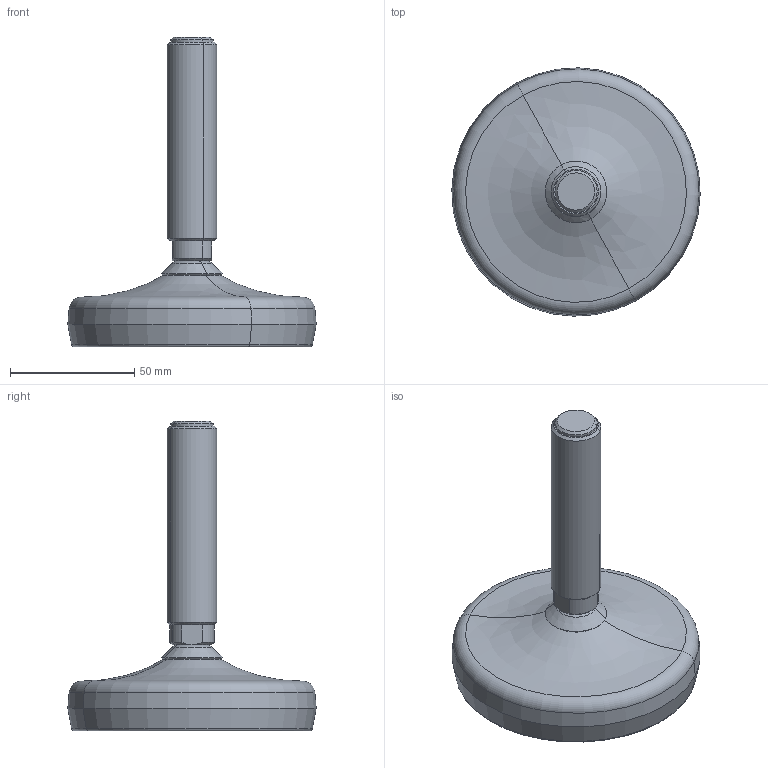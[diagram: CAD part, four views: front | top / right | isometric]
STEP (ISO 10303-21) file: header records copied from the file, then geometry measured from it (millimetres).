
FILE_DESCRIPTION(('CATIA V5 STEP Exchange'),'2;1');
FILE_NAME('C:\Users\dentellad\Desktop\Product2.stp','2017-03-07T16:53:12+00:00',('none'),('none'),'Version 5-6 Release 2012','CATIA V5 STEP AP203','none');
FILE_SCHEMA(('CONFIG_CONTROL_DESIGN'));
Length unit declared in the file: millimetre
Products named in the file (1): Product2
Assembly tree (3 placements, depth 2):
  Product2
    #58
    #1035
    #1376
Bounding box: 99.97 x 99.97 x 124.64 mm (x, y, z)
Volume: 195262.8 mm3; surface area: 49429.3 mm2
Topology: 4 solids, 4 shells, 102 faces, 203 edges, 120 vertices
Faces by surface type: cone 37, plane 23, cylinder 18, torus 18, revolution 6
Entity records: 2472 total; most frequent: CARTESIAN_POINT 434, ORIENTED_EDGE 406, DIRECTION 335, AXIS2_PLACEMENT_3D 208, EDGE_CURVE 203, CIRCLE 141, VERTEX_POINT 120, EDGE_LOOP 117
